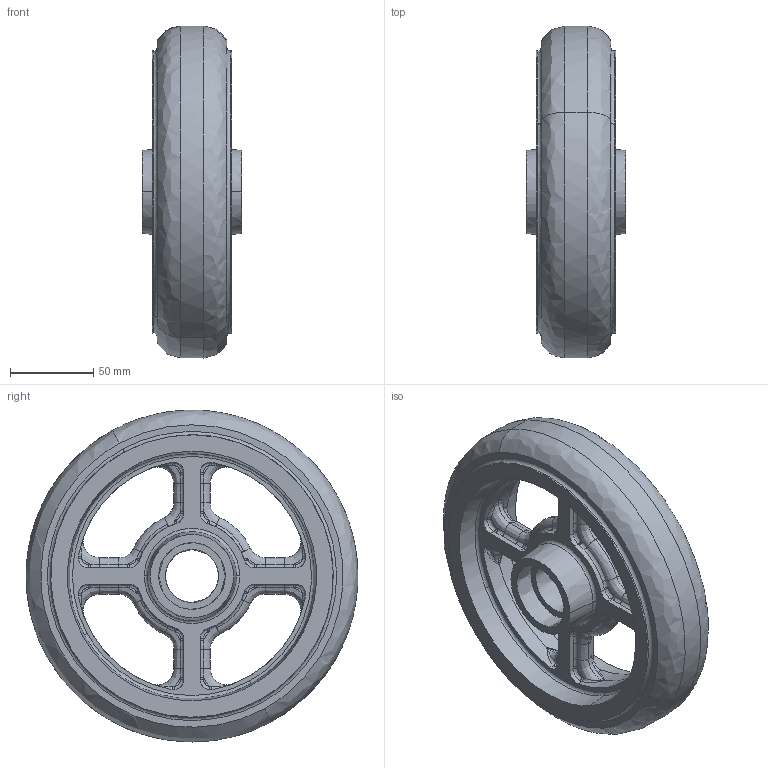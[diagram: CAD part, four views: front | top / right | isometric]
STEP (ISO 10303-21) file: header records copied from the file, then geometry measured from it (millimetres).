
FILE_DESCRIPTION (( 'STEP AP214' ), '1' );
FILE_NAME ('KTU-200WK-GS-100.STEP', '2018-08-30T08:08:34', ( '' ), ( '' ), 'SwSTEP 2.0', 'SolidWorks 2010', '' );
FILE_SCHEMA (( 'AUTOMOTIVE_DESIGN' ));
Length unit declared in the file: millimetre
Products named in the file (1): KTU-200WK-GS-100
Bounding box: 60 x 200 x 200 mm (x, y, z)
Volume: 771564.5 mm3; surface area: 104483.7 mm2
Topology: 1 solids, 1 shells, 384 faces, 1045 edges, 663 vertices
Faces by surface type: bspline 326, plane 58
Entity records: 40797 total; most frequent: CARTESIAN_POINT 33637, ORIENTED_EDGE 2074, EDGE_CURVE 1037, B_SPLINE_CURVE_WITH_KNOTS 921, VERTEX_POINT 663, EDGE_LOOP 402, FACE_OUTER_BOUND 384, ADVANCED_FACE 384
